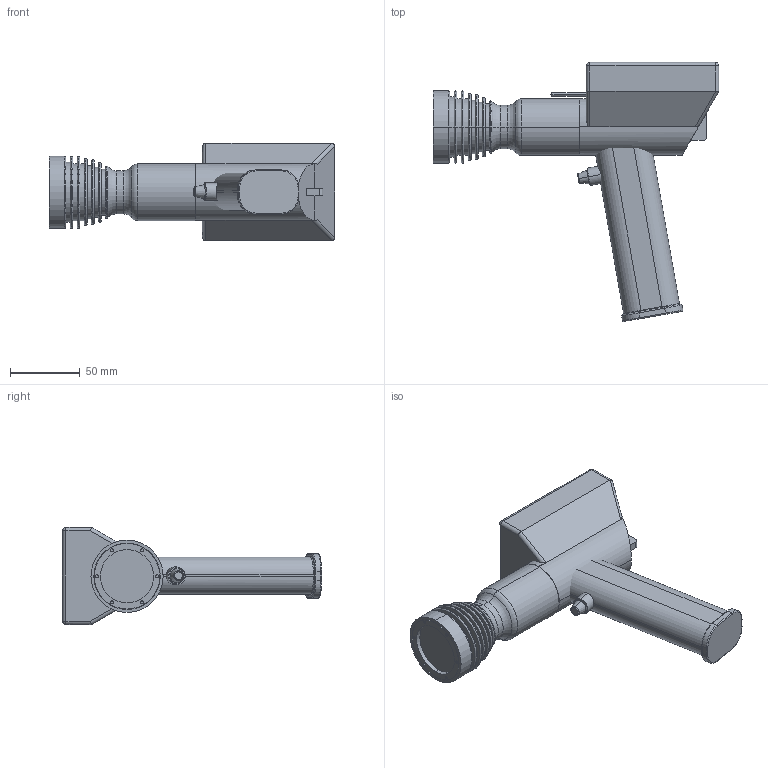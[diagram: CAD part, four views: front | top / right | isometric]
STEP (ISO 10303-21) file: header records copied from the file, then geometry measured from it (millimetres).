
FILE_DESCRIPTION (( 'STEP AP214' ), '1' );
FILE_NAME ('Light Gun.STEP', '2010-09-18T01:27:52', ( 'Owner' ), ( 'HOME' ), 'SwSTEP 2.0', 'SolidWorks 2008', '' );
FILE_SCHEMA (( 'AUTOMOTIVE_DESIGN' ));
Length unit declared in the file: inch
Products named in the file (4): lens; handle; Top; Light Gun
Assembly tree (3 placements, depth 2):
  Light Gun
    handle
    Top
    lens
Bounding box: 204.89 x 185.93 x 69.85 mm (x, y, z)
Volume: 575881.6 mm3; surface area: 70746.6 mm2
Topology: 3 solids, 3 shells, 196 faces, 426 edges, 256 vertices
Faces by surface type: cylinder 83, plane 59, torus 48, sphere 4, cone 2
Entity records: 5626 total; most frequent: CARTESIAN_POINT 1068, DIRECTION 1036, ORIENTED_EDGE 844, AXIS2_PLACEMENT_3D 438, EDGE_CURVE 422, VERTEX_POINT 256, CIRCLE 236, EDGE_LOOP 220
